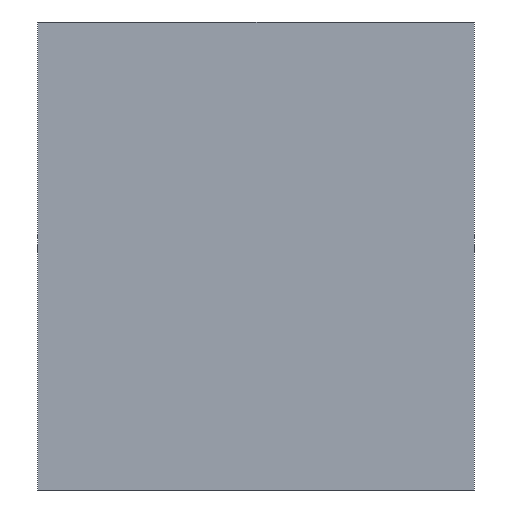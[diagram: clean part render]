
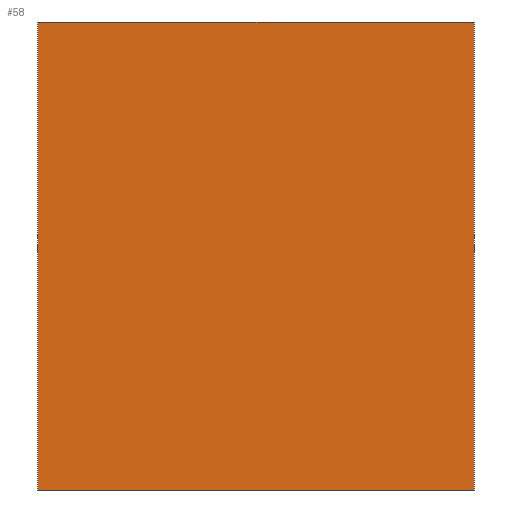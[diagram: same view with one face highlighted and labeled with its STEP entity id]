
A CAD part, left-side view. The second image highlights one B-rep face of the part: STEP entity #58.
In plain terms, the highlighted planar face has unit normal (-1, 0, 0).
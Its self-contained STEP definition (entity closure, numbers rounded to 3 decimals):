
#58 = ADVANCED_FACE('',(#59),#73,.F.);
#59 = FACE_BOUND('',#60,.F.);
#60 = EDGE_LOOP('',(#61,#96,#124,#152));
#61 = ORIENTED_EDGE('',*,*,#62,.F.);
#62 = EDGE_CURVE('',#63,#65,#67,.T.);
#63 = VERTEX_POINT('',#64);
#64 = CARTESIAN_POINT('',(-3.,-1.4,-1.5));
#65 = VERTEX_POINT('',#66);
#66 = CARTESIAN_POINT('',(-3.,-1.4,1.5));
#67 = SURFACE_CURVE('',#68,(#72,#84),.PCURVE_S1.);
#68 = LINE('',#69,#70);
#69 = CARTESIAN_POINT('',(-3.,-1.4,-1.5));
#70 = VECTOR('',#71,1.);
#71 = DIRECTION('',(0.,0.,1.));
#72 = PCURVE('',#73,#78);
#73 = PLANE('',#74);
#74 = AXIS2_PLACEMENT_3D('',#75,#76,#77);
#75 = CARTESIAN_POINT('',(-3.,-1.4,-1.5));
#76 = DIRECTION('',(1.,0.,0.));
#77 = DIRECTION('',(0.,0.,1.));
#78 = DEFINITIONAL_REPRESENTATION('',(#79),#83);
#79 = LINE('',#80,#81);
#80 = CARTESIAN_POINT('',(0.,0.));
#81 = VECTOR('',#82,1.);
#82 = DIRECTION('',(1.,0.));
#83 = ( GEOMETRIC_REPRESENTATION_CONTEXT(2) 
PARAMETRIC_REPRESENTATION_CONTEXT() REPRESENTATION_CONTEXT('2D SPACE',''
  ) );
#84 = PCURVE('',#85,#90);
#85 = PLANE('',#86);
#86 = AXIS2_PLACEMENT_3D('',#87,#88,#89);
#87 = CARTESIAN_POINT('',(-3.,-1.4,-1.5));
#88 = DIRECTION('',(0.,1.,0.));
#89 = DIRECTION('',(0.,-0.,1.));
#90 = DEFINITIONAL_REPRESENTATION('',(#91),#95);
#91 = LINE('',#92,#93);
#92 = CARTESIAN_POINT('',(0.,0.));
#93 = VECTOR('',#94,1.);
#94 = DIRECTION('',(1.,0.));
#95 = ( GEOMETRIC_REPRESENTATION_CONTEXT(2) 
PARAMETRIC_REPRESENTATION_CONTEXT() REPRESENTATION_CONTEXT('2D SPACE',''
  ) );
#96 = ORIENTED_EDGE('',*,*,#97,.T.);
#97 = EDGE_CURVE('',#63,#98,#100,.T.);
#98 = VERTEX_POINT('',#99);
#99 = CARTESIAN_POINT('',(-3.,1.4,-1.5));
#100 = SURFACE_CURVE('',#101,(#105,#112),.PCURVE_S1.);
#101 = LINE('',#102,#103);
#102 = CARTESIAN_POINT('',(-3.,-1.4,-1.5));
#103 = VECTOR('',#104,1.);
#104 = DIRECTION('',(0.,1.,0.));
#105 = PCURVE('',#73,#106);
#106 = DEFINITIONAL_REPRESENTATION('',(#107),#111);
#107 = LINE('',#108,#109);
#108 = CARTESIAN_POINT('',(0.,0.));
#109 = VECTOR('',#110,1.);
#110 = DIRECTION('',(0.,-1.));
#111 = ( GEOMETRIC_REPRESENTATION_CONTEXT(2) 
PARAMETRIC_REPRESENTATION_CONTEXT() REPRESENTATION_CONTEXT('2D SPACE',''
  ) );
#112 = PCURVE('',#113,#118);
#113 = PLANE('',#114);
#114 = AXIS2_PLACEMENT_3D('',#115,#116,#117);
#115 = CARTESIAN_POINT('',(-3.,-1.4,-1.5));
#116 = DIRECTION('',(0.,0.,1.));
#117 = DIRECTION('',(1.,0.,-0.));
#118 = DEFINITIONAL_REPRESENTATION('',(#119),#123);
#119 = LINE('',#120,#121);
#120 = CARTESIAN_POINT('',(0.,0.));
#121 = VECTOR('',#122,1.);
#122 = DIRECTION('',(0.,1.));
#123 = ( GEOMETRIC_REPRESENTATION_CONTEXT(2) 
PARAMETRIC_REPRESENTATION_CONTEXT() REPRESENTATION_CONTEXT('2D SPACE',''
  ) );
#124 = ORIENTED_EDGE('',*,*,#125,.T.);
#125 = EDGE_CURVE('',#98,#126,#128,.T.);
#126 = VERTEX_POINT('',#127);
#127 = CARTESIAN_POINT('',(-3.,1.4,1.5));
#128 = SURFACE_CURVE('',#129,(#133,#140),.PCURVE_S1.);
#129 = LINE('',#130,#131);
#130 = CARTESIAN_POINT('',(-3.,1.4,-1.5));
#131 = VECTOR('',#132,1.);
#132 = DIRECTION('',(0.,0.,1.));
#133 = PCURVE('',#73,#134);
#134 = DEFINITIONAL_REPRESENTATION('',(#135),#139);
#135 = LINE('',#136,#137);
#136 = CARTESIAN_POINT('',(0.,-2.8));
#137 = VECTOR('',#138,1.);
#138 = DIRECTION('',(1.,0.));
#139 = ( GEOMETRIC_REPRESENTATION_CONTEXT(2) 
PARAMETRIC_REPRESENTATION_CONTEXT() REPRESENTATION_CONTEXT('2D SPACE',''
  ) );
#140 = PCURVE('',#141,#146);
#141 = PLANE('',#142);
#142 = AXIS2_PLACEMENT_3D('',#143,#144,#145);
#143 = CARTESIAN_POINT('',(-3.,1.4,-1.5));
#144 = DIRECTION('',(0.,1.,0.));
#145 = DIRECTION('',(0.,-0.,1.));
#146 = DEFINITIONAL_REPRESENTATION('',(#147),#151);
#147 = LINE('',#148,#149);
#148 = CARTESIAN_POINT('',(0.,0.));
#149 = VECTOR('',#150,1.);
#150 = DIRECTION('',(1.,0.));
#151 = ( GEOMETRIC_REPRESENTATION_CONTEXT(2) 
PARAMETRIC_REPRESENTATION_CONTEXT() REPRESENTATION_CONTEXT('2D SPACE',''
  ) );
#152 = ORIENTED_EDGE('',*,*,#153,.F.);
#153 = EDGE_CURVE('',#65,#126,#154,.T.);
#154 = SURFACE_CURVE('',#155,(#159,#166),.PCURVE_S1.);
#155 = LINE('',#156,#157);
#156 = CARTESIAN_POINT('',(-3.,-1.4,1.5));
#157 = VECTOR('',#158,1.);
#158 = DIRECTION('',(0.,1.,0.));
#159 = PCURVE('',#73,#160);
#160 = DEFINITIONAL_REPRESENTATION('',(#161),#165);
#161 = LINE('',#162,#163);
#162 = CARTESIAN_POINT('',(3.,0.));
#163 = VECTOR('',#164,1.);
#164 = DIRECTION('',(0.,-1.));
#165 = ( GEOMETRIC_REPRESENTATION_CONTEXT(2) 
PARAMETRIC_REPRESENTATION_CONTEXT() REPRESENTATION_CONTEXT('2D SPACE',''
  ) );
#166 = PCURVE('',#167,#172);
#167 = PLANE('',#168);
#168 = AXIS2_PLACEMENT_3D('',#169,#170,#171);
#169 = CARTESIAN_POINT('',(-3.,-1.4,1.5));
#170 = DIRECTION('',(0.,0.,1.));
#171 = DIRECTION('',(1.,0.,-0.));
#172 = DEFINITIONAL_REPRESENTATION('',(#173),#177);
#173 = LINE('',#174,#175);
#174 = CARTESIAN_POINT('',(0.,0.));
#175 = VECTOR('',#176,1.);
#176 = DIRECTION('',(0.,1.));
#177 = ( GEOMETRIC_REPRESENTATION_CONTEXT(2) 
PARAMETRIC_REPRESENTATION_CONTEXT() REPRESENTATION_CONTEXT('2D SPACE',''
  ) );
